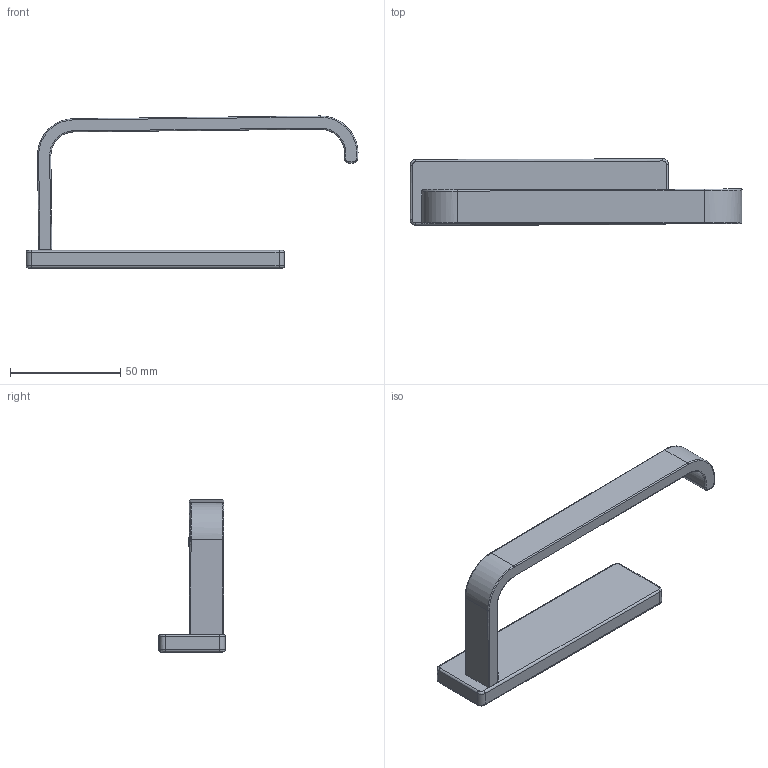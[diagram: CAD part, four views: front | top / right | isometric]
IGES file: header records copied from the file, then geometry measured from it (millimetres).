
Global section: file name: 366a14a3-7552-4c6b-9f80-df589abfb654.zip; native system: unknown; preprocessor: unknown; author: unknown; organization: unknown; date: 20200107.145125; units: millimetre
Bounding box: 150.6 x 30.12 x 68.97 mm (x, y, z)
Volume: 46504.5 mm3; surface area: 17717.1 mm2
Topology: 2 solids, 2 shells, 64 faces, 142 edges, 82 vertices
Faces by surface type: bspline 64
